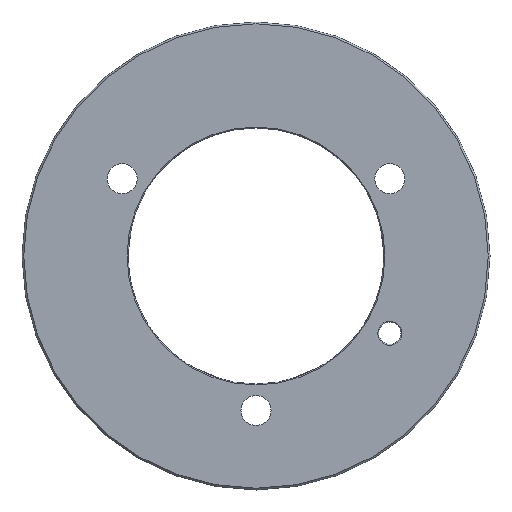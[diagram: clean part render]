
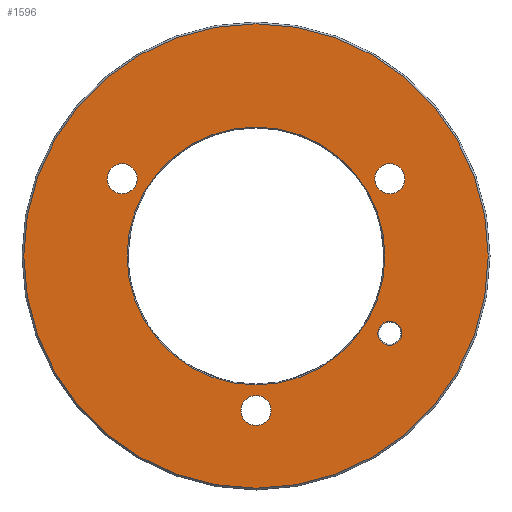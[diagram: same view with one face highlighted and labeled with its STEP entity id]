
A CAD part, front view. The second image highlights one B-rep face of the part: STEP entity #1596.
In plain terms, the highlighted planar face has unit normal (0, -1, 0).
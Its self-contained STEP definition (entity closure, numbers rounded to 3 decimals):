
#13 = CIRCLE ( 'NONE', #2476, 1.7 ) ;
#15 = DIRECTION ( 'NONE',  ( 0., 1., 0. ) ) ;
#22 = VERTEX_POINT ( 'NONE', #2414 ) ;
#32 = DIRECTION ( 'NONE',  ( 0., 1., 0. ) ) ;
#46 = CARTESIAN_POINT ( 'NONE',  ( -15.155, 0., 8.75 ) ) ;
#84 = CARTESIAN_POINT ( 'NONE',  ( 0., 0., -19.2 ) ) ;
#93 = CARTESIAN_POINT ( 'NONE',  ( 0., 0., 0. ) ) ;
#120 = AXIS2_PLACEMENT_3D ( 'NONE', #3058, #894, #3093 ) ;
#124 = ORIENTED_EDGE ( 'NONE', *, *, #430, .T. ) ;
#227 = VERTEX_POINT ( 'NONE', #2317 ) ;
#241 = CARTESIAN_POINT ( 'NONE',  ( 15.155, 0., 10.45 ) ) ;
#265 = ORIENTED_EDGE ( 'NONE', *, *, #2294, .T. ) ;
#277 = PLANE ( 'NONE',  #2732 ) ;
#278 = CIRCLE ( 'NONE', #2291, 1.7 ) ;
#321 = EDGE_LOOP ( 'NONE', ( #1955, #483 ) ) ;
#325 = DIRECTION ( 'NONE',  ( 0., 0., 1. ) ) ;
#339 = CARTESIAN_POINT ( 'NONE',  ( 15.155, 0., -10.1 ) ) ;
#342 = CARTESIAN_POINT ( 'NONE',  ( 0., 0., 26.3 ) ) ;
#363 = VERTEX_POINT ( 'NONE', #1977 ) ;
#383 = EDGE_CURVE ( 'NONE', #2188, #363, #750, .T. ) ;
#394 = EDGE_CURVE ( 'NONE', #2305, #2749, #1284, .T. ) ;
#430 = EDGE_CURVE ( 'NONE', #2749, #2305, #1313, .T. ) ;
#433 = CIRCLE ( 'NONE', #1433, 26.3 ) ;
#483 = ORIENTED_EDGE ( 'NONE', *, *, #1988, .T. ) ;
#500 = FACE_OUTER_BOUND ( 'NONE', #1884, .T. ) ;
#521 = FACE_BOUND ( 'NONE', #1065, .T. ) ;
#524 = EDGE_CURVE ( 'NONE', #22, #1374, #2099, .T. ) ;
#585 = DIRECTION ( 'NONE',  ( 0., 0., 1. ) ) ;
#623 = CIRCLE ( 'NONE', #3384, 1.7 ) ;
#676 = AXIS2_PLACEMENT_3D ( 'NONE', #2160, #2201, #1691 ) ;
#696 = AXIS2_PLACEMENT_3D ( 'NONE', #3502, #2146, #2671 ) ;
#741 = DIRECTION ( 'NONE',  ( 0., 1., 0. ) ) ;
#750 = CIRCLE ( 'NONE', #2823, 1.7 ) ;
#866 = CARTESIAN_POINT ( 'NONE',  ( 15.155, 0., -8.75 ) ) ;
#894 = DIRECTION ( 'NONE',  ( 0., 1., 0. ) ) ;
#919 = AXIS2_PLACEMENT_3D ( 'NONE', #1485, #3131, #3111 ) ;
#959 = DIRECTION ( 'NONE',  ( 0., 0., 1. ) ) ;
#986 = CARTESIAN_POINT ( 'NONE',  ( 0., 0., -17.5 ) ) ;
#993 = CARTESIAN_POINT ( 'NONE',  ( 15.155, 0., 8.75 ) ) ;
#1037 = CARTESIAN_POINT ( 'NONE',  ( -15.155, 0., 7.05 ) ) ;
#1061 = CARTESIAN_POINT ( 'NONE',  ( 0., 0., -26.3 ) ) ;
#1065 = EDGE_LOOP ( 'NONE', ( #2881, #1392 ) ) ;
#1142 = EDGE_CURVE ( 'NONE', #363, #2188, #13, .T. ) ;
#1165 = CIRCLE ( 'NONE', #2460, 1.35 ) ;
#1284 = CIRCLE ( 'NONE', #3276, 14.6 ) ;
#1313 = CIRCLE ( 'NONE', #676, 14.6 ) ;
#1323 = VERTEX_POINT ( 'NONE', #342 ) ;
#1331 = EDGE_CURVE ( 'NONE', #227, #1564, #2395, .T. ) ;
#1374 = VERTEX_POINT ( 'NONE', #84 ) ;
#1392 = ORIENTED_EDGE ( 'NONE', *, *, #2288, .T. ) ;
#1433 = AXIS2_PLACEMENT_3D ( 'NONE', #2333, #2622, #1839 ) ;
#1480 = DIRECTION ( 'NONE',  ( 0., 1., 0. ) ) ;
#1485 = CARTESIAN_POINT ( 'NONE',  ( 0., 0., -17.5 ) ) ;
#1498 = DIRECTION ( 'NONE',  ( 0., 1., 0. ) ) ;
#1564 = VERTEX_POINT ( 'NONE', #241 ) ;
#1591 = VERTEX_POINT ( 'NONE', #1061 ) ;
#1596 = ADVANCED_FACE ( 'NONE', ( #2141, #1876, #500, #1608, #2700, #521 ), #277, .F. ) ;
#1608 = FACE_BOUND ( 'NONE', #2500, .T. ) ;
#1614 = ORIENTED_EDGE ( 'NONE', *, *, #2043, .T. ) ;
#1691 = DIRECTION ( 'NONE',  ( 0., 0., 1. ) ) ;
#1839 = DIRECTION ( 'NONE',  ( 0., 0., 1. ) ) ;
#1876 = FACE_BOUND ( 'NONE', #3304, .T. ) ;
#1884 = EDGE_LOOP ( 'NONE', ( #265, #3482 ) ) ;
#1899 = EDGE_LOOP ( 'NONE', ( #3322, #2651 ) ) ;
#1955 = ORIENTED_EDGE ( 'NONE', *, *, #3424, .T. ) ;
#1977 = CARTESIAN_POINT ( 'NONE',  ( -15.155, 0., 10.45 ) ) ;
#1988 = EDGE_CURVE ( 'NONE', #2036, #3092, #1165, .T. ) ;
#2036 = VERTEX_POINT ( 'NONE', #3421 ) ;
#2043 = EDGE_CURVE ( 'NONE', #1564, #227, #278, .T. ) ;
#2099 = CIRCLE ( 'NONE', #919, 1.7 ) ;
#2141 = FACE_BOUND ( 'NONE', #321, .T. ) ;
#2146 = DIRECTION ( 'NONE',  ( 0., 1., 0. ) ) ;
#2160 = CARTESIAN_POINT ( 'NONE',  ( 0., 0., 0. ) ) ;
#2178 = CIRCLE ( 'NONE', #3277, 26.3 ) ;
#2188 = VERTEX_POINT ( 'NONE', #1037 ) ;
#2201 = DIRECTION ( 'NONE',  ( 0., 1., 0. ) ) ;
#2271 = ORIENTED_EDGE ( 'NONE', *, *, #394, .T. ) ;
#2288 = EDGE_CURVE ( 'NONE', #1374, #22, #623, .T. ) ;
#2291 = AXIS2_PLACEMENT_3D ( 'NONE', #993, #1498, #959 ) ;
#2294 = EDGE_CURVE ( 'NONE', #1323, #1591, #433, .T. ) ;
#2302 = CIRCLE ( 'NONE', #696, 1.35 ) ;
#2305 = VERTEX_POINT ( 'NONE', #2897 ) ;
#2317 = CARTESIAN_POINT ( 'NONE',  ( 15.155, 0., 7.05 ) ) ;
#2333 = CARTESIAN_POINT ( 'NONE',  ( 0., 0., 0. ) ) ;
#2366 = DIRECTION ( 'NONE',  ( 0., 0., 1. ) ) ;
#2395 = CIRCLE ( 'NONE', #120, 1.7 ) ;
#2414 = CARTESIAN_POINT ( 'NONE',  ( 0., 0., -15.8 ) ) ;
#2451 = DIRECTION ( 'NONE',  ( 0., 1., 0. ) ) ;
#2460 = AXIS2_PLACEMENT_3D ( 'NONE', #866, #2798, #2471 ) ;
#2471 = DIRECTION ( 'NONE',  ( 0., 0., 1. ) ) ;
#2473 = DIRECTION ( 'NONE',  ( 0., 0., 1. ) ) ;
#2476 = AXIS2_PLACEMENT_3D ( 'NONE', #46, #1480, #325 ) ;
#2500 = EDGE_LOOP ( 'NONE', ( #1614, #3312 ) ) ;
#2506 = DIRECTION ( 'NONE',  ( 0., -1., 0. ) ) ;
#2515 = CARTESIAN_POINT ( 'NONE',  ( -15.155, 0., 8.75 ) ) ;
#2522 = CARTESIAN_POINT ( 'NONE',  ( 0., 0., -14.6 ) ) ;
#2622 = DIRECTION ( 'NONE',  ( 0., -1., 0. ) ) ;
#2651 = ORIENTED_EDGE ( 'NONE', *, *, #383, .T. ) ;
#2671 = DIRECTION ( 'NONE',  ( 0., 0., 1. ) ) ;
#2700 = FACE_BOUND ( 'NONE', #1899, .T. ) ;
#2732 = AXIS2_PLACEMENT_3D ( 'NONE', #93, #32, #2473 ) ;
#2741 = DIRECTION ( 'NONE',  ( 0., 0., 1. ) ) ;
#2749 = VERTEX_POINT ( 'NONE', #2522 ) ;
#2793 = DIRECTION ( 'NONE',  ( 0., 0., 1. ) ) ;
#2798 = DIRECTION ( 'NONE',  ( 0., 1., 0. ) ) ;
#2823 = AXIS2_PLACEMENT_3D ( 'NONE', #2515, #2451, #2741 ) ;
#2881 = ORIENTED_EDGE ( 'NONE', *, *, #524, .T. ) ;
#2897 = CARTESIAN_POINT ( 'NONE',  ( 0., 0., 14.6 ) ) ;
#3047 = CARTESIAN_POINT ( 'NONE',  ( 0., 0., 0. ) ) ;
#3058 = CARTESIAN_POINT ( 'NONE',  ( 15.155, 0., 8.75 ) ) ;
#3092 = VERTEX_POINT ( 'NONE', #339 ) ;
#3093 = DIRECTION ( 'NONE',  ( 0., 0., 1. ) ) ;
#3111 = DIRECTION ( 'NONE',  ( 0., 0., 1. ) ) ;
#3131 = DIRECTION ( 'NONE',  ( 0., 1., 0. ) ) ;
#3250 = EDGE_CURVE ( 'NONE', #1591, #1323, #2178, .T. ) ;
#3276 = AXIS2_PLACEMENT_3D ( 'NONE', #3289, #15, #585 ) ;
#3277 = AXIS2_PLACEMENT_3D ( 'NONE', #3047, #2506, #2793 ) ;
#3289 = CARTESIAN_POINT ( 'NONE',  ( 0., 0., 0. ) ) ;
#3304 = EDGE_LOOP ( 'NONE', ( #124, #2271 ) ) ;
#3312 = ORIENTED_EDGE ( 'NONE', *, *, #1331, .T. ) ;
#3322 = ORIENTED_EDGE ( 'NONE', *, *, #1142, .T. ) ;
#3384 = AXIS2_PLACEMENT_3D ( 'NONE', #986, #741, #2366 ) ;
#3421 = CARTESIAN_POINT ( 'NONE',  ( 15.155, 0., -7.4 ) ) ;
#3424 = EDGE_CURVE ( 'NONE', #3092, #2036, #2302, .T. ) ;
#3482 = ORIENTED_EDGE ( 'NONE', *, *, #3250, .T. ) ;
#3502 = CARTESIAN_POINT ( 'NONE',  ( 15.155, 0., -8.75 ) ) ;
